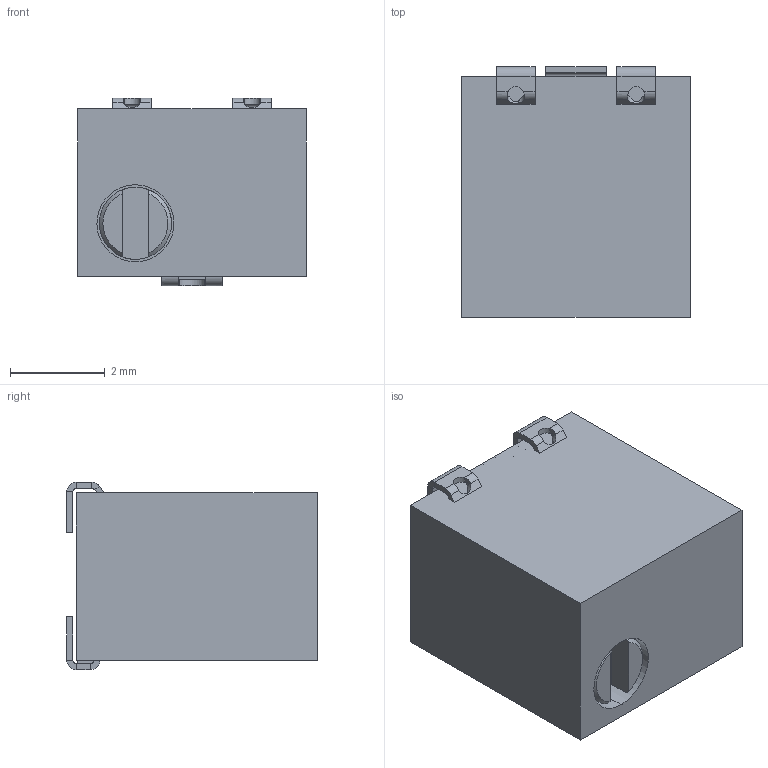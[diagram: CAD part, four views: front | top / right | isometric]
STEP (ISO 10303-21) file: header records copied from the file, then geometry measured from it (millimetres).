
FILE_DESCRIPTION(/* description */ ('P13SMNFGS103MAE'),/* implementation_level */ '2;1');
FILE_NAME(/* name */ 'TSM4YJ',/* time_stamp */ '2024-01-24T11:22:45+01:00',/* author */ ('NL'),/* organization */ ('Vishay'),/* preprocessor_version */ 'ST-DEVELOPER v18.102',/* originating_system */ 'Solid Edge',/* authorisation */ 'Unknown');
FILE_SCHEMA (('AUTOMOTIVE_DESIGN {1 0 10303 214 3 1 1}'));
Length unit declared in the file: millimetre
Products named in the file (1): TSM4YJ
Bounding box: 4.83 x 5.28 x 3.96 mm (x, y, z)
Volume: 86.2 mm3; surface area: 144.2 mm2
Topology: 1 solids, 2 shells, 147 faces, 384 edges, 238 vertices
Faces by surface type: plane 101, cylinder 40, cone 6
Entity records: 4523 total; most frequent: CARTESIAN_POINT 939, ORIENTED_EDGE 768, DIRECTION 695, EDGE_CURVE 384, LINE 259, VECTOR 259, VERTEX_POINT 238, AXIS2_PLACEMENT_3D 218
